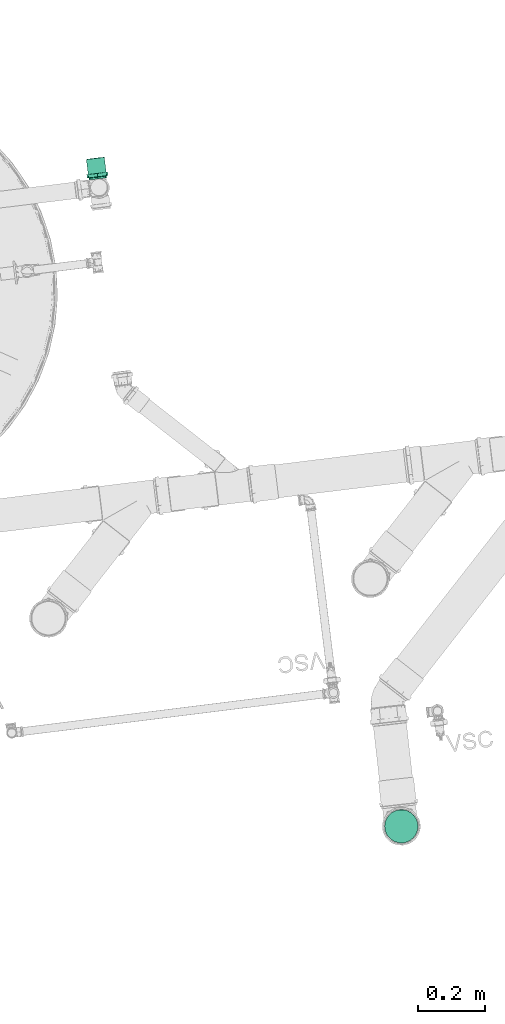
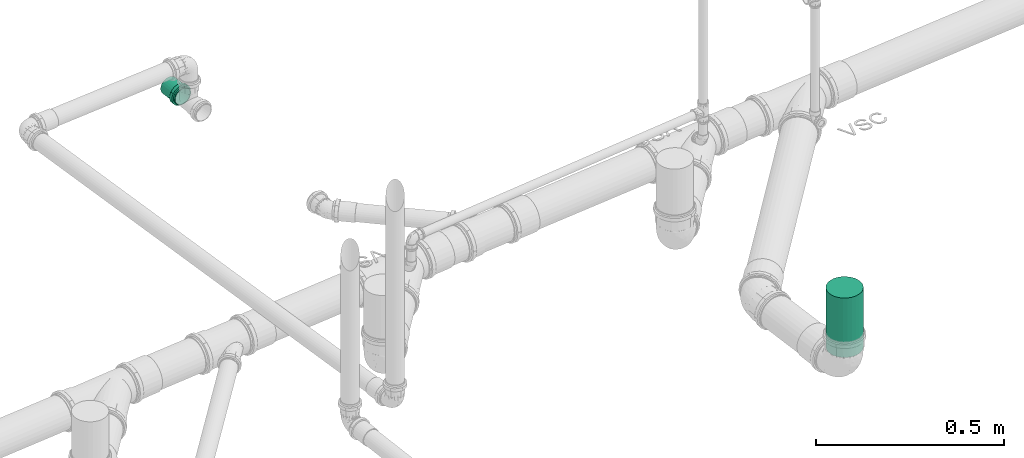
# One storey, part 26 of 97: 1 flow fitting, 1 flow segment.
"""IFC2X3 building model written with IfcOpenShell, lengths in centimetres."""

from ifc_helpers import new_model, entity, si_unit, converted_unit, derived_unit, direction, frame, frame_2d, origin, place, context, subcontext, project, spatial, circle, extrude, faceted_brep, source, transform, mapped, material, type_object, type_shapes, element, save


model = new_model("IFC2X3")

# Units and contexts
model_context = context("Model", 3, precision=0.001, world=origin(), true_north=direction((6.12303176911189e-17, 1.0)))
body_context = subcontext(model_context, "Body", "Model", "MODEL_VIEW")
ifc_project = project(units=[si_unit("LENGTHUNIT", "METRE", prefix="CENTI"), si_unit("AREAUNIT", "SQUARE_METRE"), si_unit("VOLUMEUNIT", "CUBIC_METRE"), converted_unit("PLANEANGLEUNIT", "DEGREE", entity("IfcRatioMeasure", 0.0174532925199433), si_unit("PLANEANGLEUNIT", "RADIAN"), dimensions=[0, 0, 0, 0, 0, 0, 0]), si_unit("MASSUNIT", "GRAM", prefix="KILO"), derived_unit("MASSDENSITYUNIT", [(si_unit("MASSUNIT", "GRAM", prefix="KILO"), 1), (si_unit("LENGTHUNIT", "METRE"), -3)]), derived_unit("MOMENTOFINERTIAUNIT", [(si_unit("LENGTHUNIT", "METRE"), 4)]), si_unit("TIMEUNIT", "SECOND"), si_unit("FREQUENCYUNIT", "HERTZ"), si_unit("THERMODYNAMICTEMPERATUREUNIT", "DEGREE_CELSIUS"), derived_unit("THERMALTRANSMITTANCEUNIT", [(si_unit("MASSUNIT", "GRAM", prefix="KILO"), 1), (si_unit("THERMODYNAMICTEMPERATUREUNIT", "KELVIN"), -1), (si_unit("TIMEUNIT", "SECOND"), -3)]), derived_unit("VOLUMETRICFLOWRATEUNIT", [(si_unit("LENGTHUNIT", "METRE"), 3), (si_unit("TIMEUNIT", "SECOND"), -1)]), si_unit("ELECTRICCURRENTUNIT", "AMPERE"), si_unit("ELECTRICVOLTAGEUNIT", "VOLT"), si_unit("POWERUNIT", "WATT"), si_unit("FORCEUNIT", "NEWTON", prefix="KILO"), si_unit("ILLUMINANCEUNIT", "LUX"), si_unit("LUMINOUSFLUXUNIT", "LUMEN"), si_unit("LUMINOUSINTENSITYUNIT", "CANDELA"), derived_unit("USERDEFINED", [(si_unit("MASSUNIT", "GRAM", prefix="KILO"), -1), (si_unit("LENGTHUNIT", "METRE"), -2), (si_unit("TIMEUNIT", "SECOND"), 3), (si_unit("LUMINOUSFLUXUNIT", "LUMEN"), 1)]), derived_unit("LINEARVELOCITYUNIT", [(si_unit("LENGTHUNIT", "METRE"), 1), (si_unit("TIMEUNIT", "SECOND"), -1)]), si_unit("PRESSUREUNIT", "PASCAL"), derived_unit("USERDEFINED", [(si_unit("LENGTHUNIT", "METRE"), -2), (si_unit("MASSUNIT", "GRAM", prefix="KILO"), 1), (si_unit("TIMEUNIT", "SECOND"), -2)]), derived_unit("LINEARFORCEUNIT", [(si_unit("MASSUNIT", "GRAM", prefix="KILO"), 1), (si_unit("LENGTHUNIT", "METRE"), 1), (si_unit("TIMEUNIT", "SECOND"), -2), (si_unit("LENGTHUNIT", "METRE"), -1)]), derived_unit("PLANARFORCEUNIT", [(si_unit("MASSUNIT", "GRAM", prefix="KILO"), 1), (si_unit("LENGTHUNIT", "METRE"), 1), (si_unit("TIMEUNIT", "SECOND"), -2), (si_unit("LENGTHUNIT", "METRE"), -2)])], contexts=[model_context])

# Site, building, storey
site_placement = place(None, origin())
site = spatial("IfcSite", under=ifc_project, at=site_placement, Name="Default", CompositionType="ELEMENT")
building_placement = place(site_placement, origin())
building = spatial("IfcBuilding", under=site, at=building_placement, Name="HIDROSSANITÁRIO", CompositionType="ELEMENT")
storey_placement = place(building_placement, frame((0.0, 0.0, -260.0)))
storey = spatial("IfcBuildingStorey", under=building, at=storey_placement, Name="TÉRREO-HID", CompositionType="ELEMENT", Elevation=-260.0)

# Flow segment
pipe_segment_type = type_object("IfcPipeSegmentType", Name="Tipos de tubos:Tubo - Esgoto - Série Normal", PredefinedType="NOTDEFINED")
flow_segment_placement = place(storey_placement, origin())
element("IfcFlowSegment", 1, at=flow_segment_placement, inside=storey, type_object=pipe_segment_type, Name="Tipos de tubos:Tubo - Esgoto - Série Normal", ObjectType="Tipos de tubos:Tubo - Esgoto - Série Normal", context=body_context, shape_type="SweptSolid", body=[
    extrude(circle(Radius=5.0, at=frame_2d((0.0, -4.3314685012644e-13), x_axis=(1.0, 0.0))), frame((-1489.38175283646, 2879.55464145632, -29.3156877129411), z_axis=(1.05550584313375e-05, -8.57618278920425e-05, 0.99999999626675), x_axis=(1.0, 0.0, -1.05550584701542e-05)), (0.0, 0.0, 1.0), 19.284630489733),
])

# Flow fitting
ifc_material = material(Name="PVC Branco")
pipe_fitting_type = type_object("IfcPipeFittingType", Name="Luva Simples para Conexão - Serie Normal - Esgoto - MEP - Tigre:Standard", PredefinedType="NOTDEFINED", material=ifc_material)
shared_shape = source(origin(), body_context, "Body", "Brep", [
    faceted_brep([(1.65999999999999, 1.59, -2.75396078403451), (1.65999999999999, 2.24859956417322, -2.24859956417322), (1.65999999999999, 1.35999999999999, -2.35558909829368), (1.65999999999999, 0.703987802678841, -2.62731824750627), (1.65999999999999, 0.82304456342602, -3.07164412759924), (1.65999999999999, 1.9233304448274, -1.92333044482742), (1.65999999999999, 2.75396078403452, -1.59), (1.65999999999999, 2.35558909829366, -1.36000000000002), (1.65999999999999, 2.62731824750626, -0.703987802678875), (1.65999999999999, 3.07164412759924, -0.823044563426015), (1.65999999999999, 2.72, 0.0), (1.65999999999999, 3.18, 0.0), (1.65999999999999, 2.62731824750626, 0.703987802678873), (1.65999999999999, 3.07164412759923, 0.823044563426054), (1.65999999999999, 2.35558909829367, 1.36000000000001), (1.65999999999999, 2.7539607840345, 1.59000000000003), (1.65999999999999, 1.9233304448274, 1.92333044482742), (1.65999999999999, 2.24859956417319, 2.24859956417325), (1.65999999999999, 1.35999999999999, 2.35558909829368), (1.65999999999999, 1.58999999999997, 2.75396078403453), (1.65999999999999, 0.703987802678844, 2.62731824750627), (1.65999999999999, 0.823044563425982, 3.07164412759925), (1.65999999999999, 0.0, 2.72), (1.65999999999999, 0.0, 3.18), (1.65999999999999, -0.703987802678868, 2.62731824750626), (1.65999999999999, -0.823044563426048, 3.07164412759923), (1.65999999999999, -1.36000000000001, 2.35558909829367), (1.65999999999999, -1.59000000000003, 2.7539607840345), (1.65999999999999, -1.92333044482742, 1.9233304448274), (1.65999999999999, -2.24859956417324, 2.2485995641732), (1.65999999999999, -2.35558909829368, 1.35999999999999), (1.65999999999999, -2.75396078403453, 1.58999999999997), (1.65999999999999, -3.07164412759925, 0.823044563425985), (1.65999999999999, -2.62731824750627, 0.703987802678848), (1.65999999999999, -3.18, 0.0), (1.65999999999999, -2.72, 0.0), (1.65999999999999, -3.07164412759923, -0.823044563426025), (1.65999999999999, -2.62731824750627, -0.703987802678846), (1.65999999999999, -2.75396078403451, -1.59000000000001), (1.65999999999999, -2.35558909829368, -1.35999999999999), (1.65999999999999, -2.24859956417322, -2.24859956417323), (1.65999999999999, -1.92333044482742, -1.9233304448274), (1.65999999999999, -1.58999999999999, -2.75396078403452), (1.65999999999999, -1.36000000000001, -2.35558909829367), (1.65999999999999, -0.823044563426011, -3.07164412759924), (1.65999999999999, -0.70398780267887, -2.62731824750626), (1.65999999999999, 0.0, -3.18), (1.65999999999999, 0.0, -2.72), (0.650000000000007, -1.07081089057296, 2.94292196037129), (0.650000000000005, -2.43590738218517, 2.04420038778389), (0.650000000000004, -2.7120498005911, 1.56595386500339), (0.650000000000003, -2.98819221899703, 1.08770734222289), (0.650000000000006, -1.58976972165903, 2.75409372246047), (0.650000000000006, -2.0128385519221, 2.39914705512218), (0.650000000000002, -3.08409610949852, 0.54385367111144), (0.650000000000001, -3.18, 0.0), (0.650000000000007, -0.551852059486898, 3.13175019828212), (0.650000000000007, 0.552637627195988, 3.13161167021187), (0.650000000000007, 0.000392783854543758, 3.13168093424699), (0.650000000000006, 2.01344030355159, 2.39864206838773), (0.650000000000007, 1.07154907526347, 2.94265325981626), (0.650000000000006, 1.59046052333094, 2.75369484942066), (0.650000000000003, 2.98846497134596, 1.08695773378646), (0.650000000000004, 2.7124425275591, 1.56527351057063), (0.650000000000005, 2.43642008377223, 2.0435892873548), (0.650000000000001, 3.18, 0.0), (0.649999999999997, 2.43642008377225, -2.04358928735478), (0.649999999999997, 2.71244252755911, -1.5652735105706), (0.649999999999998, 2.98846497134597, -1.08695773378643), (0.649999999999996, 1.59046052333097, -2.75369484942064), (0.649999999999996, 2.01344030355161, -2.39864206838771), (0.649999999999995, 1.07154907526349, -2.94265325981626), (0.649999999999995, 0.552637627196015, -3.13161167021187), (0.649999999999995, -0.551852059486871, -3.13175019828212), (0.649999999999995, 0.000392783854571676, -3.13168093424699), (0.649999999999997, -2.01283855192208, -2.3991470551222), (0.649999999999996, -1.58976972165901, -2.75409372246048), (0.649999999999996, -1.07081089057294, -2.9429219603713), (0.649999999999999, -2.98819221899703, -1.08770734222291), (0.649999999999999, -2.71204980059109, -1.56595386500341), (0.649999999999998, -2.43590738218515, -2.04420038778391), (0.65, -3.08409610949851, -0.543853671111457), (0.64999999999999, -3.06961738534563, -0.625959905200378), (6.20000000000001, 1.36, -2.35558909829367), (6.20000000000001, 1.92333044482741, -1.92333044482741), (6.20000000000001, 1.24999999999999, -2.1650635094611), (6.20000000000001, 0.647047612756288, -2.41481456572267), (6.20000000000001, 0.70398780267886, -2.62731824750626), (6.20000000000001, 1.76776695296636, -1.76776695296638), (6.20000000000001, 2.35558909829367, -1.36), (6.20000000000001, 2.16506350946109, -1.25000000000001), (6.20000000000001, 2.41481456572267, -0.647047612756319), (6.20000000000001, 2.62731824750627, -0.703987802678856), (6.20000000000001, 2.5, 0.0), (6.20000000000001, 2.72, 0.0), (6.20000000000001, 2.41481456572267, 0.647047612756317), (6.20000000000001, 2.62731824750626, 0.703987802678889), (6.20000000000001, 2.16506350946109, 1.25000000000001), (6.20000000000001, 2.35558909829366, 1.36000000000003), (6.20000000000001, 1.76776695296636, 1.76776695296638), (6.20000000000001, 1.92333044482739, 1.92333044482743), (6.20000000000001, 1.24999999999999, 2.1650635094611), (6.20000000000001, 1.35999999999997, 2.35558909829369), (6.20000000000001, 0.64704761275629, 2.41481456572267), (6.20000000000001, 0.703987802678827, 2.62731824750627), (6.20000000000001, 0.0, 2.5), (6.20000000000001, 0.0, 2.72), (6.20000000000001, -0.647047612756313, 2.41481456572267), (6.20000000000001, -0.703987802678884, 2.62731824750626), (6.20000000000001, -1.25000000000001, 2.16506350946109), (6.20000000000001, -1.36000000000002, 2.35558909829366), (6.20000000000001, -1.76776695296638, 1.76776695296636), (6.20000000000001, -1.92333044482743, 1.92333044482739), (6.20000000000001, -2.1650635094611, 1.24999999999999), (6.20000000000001, -2.35558909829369, 1.35999999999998), (6.20000000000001, -2.62731824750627, 0.703987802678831), (6.20000000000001, -2.41481456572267, 0.647047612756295), (6.20000000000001, -2.72, 0.0), (6.20000000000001, -2.5, 0.0), (6.20000000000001, -2.62731824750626, -0.703987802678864), (6.20000000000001, -2.41481456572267, -0.647047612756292), (6.20000000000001, -2.35558909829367, -1.36000000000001), (6.20000000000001, -2.1650635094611, -1.24999999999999), (6.20000000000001, -1.9233304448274, -1.92333044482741), (6.20000000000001, -1.76776695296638, -1.76776695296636), (6.20000000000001, -1.36, -2.35558909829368), (6.20000000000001, -1.25000000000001, -2.16506350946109), (6.20000000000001, -0.703987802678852, -2.62731824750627), (6.20000000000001, -0.647047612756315, -2.41481456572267), (6.20000000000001, 0.0, -2.72), (6.20000000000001, 0.0, -2.5), (0.0, 1.24999999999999, -2.1650635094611), (0.0, 1.92333044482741, -1.92333044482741), (0.0, 1.36, -2.35558909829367), (0.0, 0.647047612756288, -2.41481456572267), (0.0, 1.76776695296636, -1.76776695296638), (0.0, 2.35558909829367, -1.36), (0.0, 2.16506350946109, -1.25000000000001), (0.0, 2.41481456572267, -0.647047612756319), (0.0, 2.62731824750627, -0.703987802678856), (0.0, 2.5, 0.0), (0.0, 2.72, 0.0), (0.0, 2.41481456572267, 0.647047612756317), (0.0, 2.62731824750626, 0.703987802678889), (0.0, 2.16506350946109, 1.25000000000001), (0.0, 2.35558909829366, 1.36000000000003), (0.0, 1.76776695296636, 1.76776695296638), (0.0, 1.92333044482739, 1.92333044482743), (0.0, 1.24999999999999, 2.1650635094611), (0.0, 1.35999999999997, 2.35558909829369), (0.0, 0.64704761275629, 2.41481456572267), (0.0, 0.703987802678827, 2.62731824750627), (0.0, 0.0, 2.5), (0.0, 0.0, 2.72), (0.0, -0.647047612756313, 2.41481456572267), (0.0, -0.703987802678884, 2.62731824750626), (0.0, -1.25000000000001, 2.16506350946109), (0.0, -1.36000000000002, 2.35558909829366), (0.0, -1.76776695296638, 1.76776695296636), (0.0, -1.92333044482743, 1.92333044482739), (0.0, -2.1650635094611, 1.24999999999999), (0.0, -2.35558909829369, 1.35999999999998), (0.0, -2.62731824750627, 0.703987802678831), (0.0, -2.41481456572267, 0.647047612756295), (0.0, -2.72, 0.0), (0.0, -2.5, 0.0), (0.0, -2.62731824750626, -0.703987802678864), (0.0, -2.41481456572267, -0.647047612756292), (0.0, -2.35558909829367, -1.36000000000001), (0.0, -2.1650635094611, -1.24999999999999), (0.0, -1.9233304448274, -1.92333044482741), (0.0, -1.76776695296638, -1.76776695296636), (0.0, -1.36, -2.35558909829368), (0.0, -1.25000000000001, -2.16506350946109), (0.0, -0.703987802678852, -2.62731824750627), (0.0, -0.647047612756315, -2.41481456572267), (0.0, 0.0, -2.72), (0.0, 0.0, -2.5), (0.0, 0.70398780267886, -2.62731824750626), (0.53, -2.63796899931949, 0.465183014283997), (0.529999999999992, -2.62558467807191, 0.535412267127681), (0.530000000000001, -2.55593799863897, 0.930366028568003), (0.530000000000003, -2.08354342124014, 1.74849844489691), (0.530000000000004, -1.72167322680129, 2.05210062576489), (0.530000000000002, -2.31974070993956, 1.33943223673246), (0.530000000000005, -0.472024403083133, 2.67872972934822), (0.530000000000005, -0.915913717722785, 2.51721626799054), (0.53, -2.72, 0.0), (0.530000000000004, -1.35980303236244, 2.35570280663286), (0.530000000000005, 0.916545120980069, 2.51698643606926), (0.530000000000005, 1.36039390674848, 2.35536163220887), (0.530000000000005, 0.47269633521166, 2.67861123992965), (0.530000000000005, 1.72218793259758, 2.05166868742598), (0.530000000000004, 2.08398195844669, 1.7479757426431), (0.530000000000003, 2.5561712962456, 0.929724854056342), (0.53, 2.72, 0.0), (0.530000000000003, 2.32007662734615, 1.33885029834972), (0.530000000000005, 0.000335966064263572, 2.67867048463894), (0.529999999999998, 2.55617129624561, -0.929724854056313), (0.529999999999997, 2.08398195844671, -1.74797574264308), (0.529999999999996, 1.7221879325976, -2.05166868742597), (0.529999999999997, 2.32007662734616, -1.3388502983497), (0.529999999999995, 0.472696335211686, -2.67861123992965), (0.529999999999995, 0.916545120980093, -2.51698643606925), (0.529999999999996, 1.3603939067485, -2.35536163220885), (0.529999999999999, -2.63796899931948, -0.465183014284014), (0.529999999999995, -0.915913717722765, -2.51721626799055), (0.529999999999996, -1.35980303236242, -2.35570280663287), (0.529999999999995, -0.47202440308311, -2.67872972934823), (0.529999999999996, -1.72167322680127, -2.0521006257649), (0.529999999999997, -2.08354342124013, -1.74849844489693), (0.529999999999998, -2.55593799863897, -0.930366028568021), (0.529999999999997, -2.31974070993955, -1.33943223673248), (0.529999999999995, 0.000335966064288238, -2.67867048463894), (3.9, -2.5, 0.0), (3.9, 2.5, 0.0)], [[[0, 1, 2]], [[0, 2, 3]], [[3, 4, 0]], [[2, 1, 5]], [[6, 5, 1]], [[7, 5, 6]], [[8, 7, 6]], [[8, 6, 9]], [[8, 9, 10]], [[10, 9, 11]], [[12, 10, 11]], [[12, 11, 13]], [[14, 12, 13]], [[14, 13, 15]], [[16, 14, 15]], [[15, 17, 16]], [[17, 18, 16]], [[17, 19, 18]], [[18, 19, 20]], [[21, 20, 19]], [[20, 21, 22]], [[22, 21, 23]], [[22, 23, 24]], [[24, 23, 25]], [[24, 25, 26]], [[27, 26, 25]], [[27, 28, 26]], [[28, 27, 29]], [[30, 28, 29]], [[31, 30, 29]], [[32, 30, 31]], [[33, 30, 32]], [[33, 32, 34]], [[35, 33, 34]], [[36, 35, 34]], [[36, 37, 35]], [[37, 36, 38]], [[39, 37, 38]], [[39, 38, 40]], [[39, 40, 41]], [[40, 42, 41]], [[41, 42, 43]], [[43, 42, 44]], [[44, 45, 43]], [[46, 45, 44]], [[4, 47, 46]], [[46, 47, 45]], [[4, 3, 47]], [[48, 27, 25]], [[31, 29, 49]], [[31, 49, 50, 51]], [[52, 53, 27]], [[32, 51, 54]], [[54, 55, 34]], [[54, 34, 32]], [[25, 56, 48]], [[49, 29, 53]], [[23, 57, 58, 56]], [[59, 19, 17]], [[27, 53, 29]], [[48, 52, 27]], [[31, 51, 32]], [[57, 23, 21]], [[60, 19, 61]], [[15, 62, 63, 64]], [[19, 60, 21]], [[15, 13, 62]], [[17, 64, 59]], [[57, 21, 60]], [[23, 56, 25]], [[15, 64, 17]], [[13, 65, 62]], [[13, 11, 65]], [[59, 61, 19]], [[65, 11, 9]], [[6, 1, 66]], [[6, 66, 67, 68]], [[69, 70, 0]], [[68, 65, 9]], [[71, 69, 0]], [[71, 0, 4]], [[4, 72, 71]], [[66, 1, 70]], [[46, 73, 74, 72]], [[75, 76, 42]], [[0, 70, 1]], [[75, 42, 40]], [[6, 68, 9]], [[73, 46, 44]], [[77, 42, 76]], [[38, 78, 79, 80]], [[42, 77, 44]], [[38, 36, 78]], [[40, 80, 75]], [[73, 44, 77]], [[46, 72, 4]], [[38, 80, 40]], [[36, 81, 82, 78]], [[55, 81, 34]], [[34, 81, 36]], [[83, 84, 85]], [[83, 85, 86]], [[86, 87, 83]], [[85, 84, 88]], [[89, 88, 84]], [[88, 89, 90]], [[90, 89, 91]], [[92, 91, 89]], [[92, 93, 91]], [[93, 92, 94]], [[95, 93, 94]], [[94, 96, 95]], [[95, 96, 97]], [[98, 97, 96]], [[97, 98, 99]], [[99, 98, 100]], [[101, 99, 100]], [[100, 102, 101]], [[101, 102, 103]], [[104, 103, 102]], [[103, 104, 105]], [[105, 104, 106]], [[105, 106, 107]], [[107, 106, 108]], [[107, 108, 109]], [[110, 109, 108]], [[110, 111, 109]], [[111, 110, 112]], [[112, 113, 111]], [[114, 113, 112]], [[113, 114, 115]], [[115, 116, 113]], [[117, 116, 115]], [[117, 118, 116]], [[119, 118, 117]], [[119, 120, 118]], [[120, 119, 121]], [[121, 122, 120]], [[122, 121, 123]], [[122, 123, 124]], [[123, 125, 124]], [[124, 125, 126]], [[126, 125, 127]], [[127, 128, 126]], [[129, 128, 127]], [[87, 130, 129]], [[129, 130, 128]], [[87, 86, 130]], [[131, 132, 133]], [[134, 131, 133]], [[135, 132, 131]], [[132, 135, 136]], [[137, 136, 135]], [[138, 136, 137]], [[136, 138, 139]], [[138, 140, 139]], [[141, 139, 140]], [[141, 140, 142]], [[142, 143, 141]], [[144, 143, 142]], [[143, 144, 145]], [[146, 145, 144]], [[147, 145, 146]], [[147, 146, 148]], [[148, 149, 147]], [[150, 149, 148]], [[149, 150, 151]], [[152, 151, 150]], [[153, 151, 152]], [[154, 153, 152]], [[155, 153, 154]], [[156, 155, 154]], [[155, 156, 157]], [[156, 158, 157]], [[159, 157, 158]], [[158, 160, 159]], [[159, 160, 161]], [[162, 161, 160]], [[160, 163, 162]], [[162, 163, 164]], [[163, 165, 164]], [[164, 165, 166]], [[165, 167, 166]], [[168, 166, 167]], [[167, 169, 168]], [[170, 168, 169]], [[171, 170, 169]], [[171, 172, 170]], [[173, 172, 171]], [[174, 172, 173]], [[173, 175, 174]], [[174, 175, 176]], [[175, 177, 176]], [[177, 134, 178]], [[176, 177, 178]], [[133, 178, 134]], [[162, 179, 180, 181]], [[159, 182, 183]], [[182, 161, 181, 184]], [[185, 155, 186]], [[161, 162, 181]], [[187, 179, 164]], [[183, 188, 157]], [[183, 157, 159]], [[161, 182, 159]], [[189, 190, 149]], [[189, 149, 151]], [[157, 188, 186]], [[157, 186, 155]], [[153, 155, 185]], [[164, 179, 162]], [[151, 191, 189]], [[147, 192, 193]], [[143, 194, 195]], [[194, 145, 193, 196]], [[143, 195, 141]], [[10, 12, 96, 94]], [[149, 192, 147]], [[153, 185, 197, 191]], [[153, 191, 151]], [[145, 147, 193]], [[190, 192, 149]], [[145, 194, 143]], [[139, 195, 198]], [[132, 199, 200]], [[199, 136, 198, 201]], [[202, 178, 203]], [[136, 139, 198]], [[139, 141, 195]], [[92, 8, 10, 94]], [[133, 203, 178]], [[200, 204, 133]], [[136, 199, 132]], [[205, 164, 166]], [[206, 207, 172]], [[133, 204, 203]], [[206, 172, 174]], [[176, 178, 202]], [[200, 133, 132]], [[174, 208, 206]], [[170, 209, 210]], [[166, 211, 205]], [[211, 168, 210, 212]], [[168, 211, 166]], [[172, 209, 170]], [[176, 202, 213, 208]], [[176, 208, 174]], [[168, 170, 210]], [[207, 209, 172]], [[205, 187, 164]], [[116, 118, 214, 165, 163]], [[156, 109, 111, 158]], [[111, 113, 160, 158]], [[113, 116, 163, 160]], [[107, 109, 156, 154]], [[154, 152, 105, 107]], [[103, 105, 152, 150]], [[103, 150, 148, 101]], [[142, 95, 97, 144]], [[97, 99, 146, 144]], [[99, 101, 148, 146]], [[93, 95, 142, 140, 215]], [[215, 140, 138, 91, 93]], [[135, 131, 85, 88]], [[90, 91, 138, 137]], [[90, 137, 135, 88]], [[86, 85, 131, 134]], [[134, 177, 130, 86]], [[128, 130, 177, 175]], [[128, 175, 173, 126]], [[167, 120, 122, 169]], [[122, 124, 171, 169]], [[124, 126, 173, 171]], [[118, 120, 167, 165, 214]], [[211, 78, 82, 81, 55, 187, 205]], [[79, 78, 211, 212, 210, 80]], [[75, 80, 210, 209, 207, 76]], [[207, 206, 208, 73, 77, 76]], [[213, 202, 72, 74, 73, 208]], [[203, 204, 69, 71, 72, 202]], [[198, 195, 65, 68]], [[199, 201, 198, 68, 67, 66]], [[204, 200, 199, 66, 70, 69]], [[195, 194, 62, 65]], [[197, 185, 56, 58, 57, 191]], [[63, 62, 194, 196, 193, 64]], [[57, 60, 61, 190, 189, 191]], [[193, 192, 190, 61, 59, 64]], [[48, 56, 185, 186, 188, 52]], [[187, 55, 54, 51, 181, 180, 179]], [[182, 184, 181, 51, 50, 49]], [[188, 183, 182, 49, 53, 52]], [[30, 33, 115, 114]], [[117, 115, 33, 35]], [[26, 28, 112, 110]], [[114, 112, 28, 30]], [[24, 26, 110, 108]], [[108, 106, 22, 24]], [[18, 20, 104, 102]], [[100, 16, 18, 102]], [[12, 14, 98, 96]], [[100, 98, 14, 16]], [[104, 20, 22, 106]], [[89, 7, 8, 92]], [[83, 87, 3, 2]], [[7, 89, 84, 5]], [[83, 2, 5, 84]], [[87, 129, 47, 3]], [[43, 45, 127, 125]], [[123, 41, 43, 125]], [[37, 39, 121, 119]], [[123, 121, 39, 41]], [[35, 37, 119, 117]], [[127, 45, 47, 129]]]),
])
type_shapes(pipe_fitting_type, [shared_shape])
flow_fitting_placement = place(storey_placement, frame((-1580.38095853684, 3073.73420298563, -33.9213127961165), z_axis=(-0.992511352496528, -0.122152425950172, 0.0), x_axis=(-0.12213263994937, 0.992350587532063, 0.0179980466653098)))
element("IfcFlowFitting", 2, at=flow_fitting_placement, inside=storey, type_object=pipe_fitting_type, material=ifc_material, Name="Luva Simples para Conexão - Serie Normal - Esgoto - MEP - Tigre:Standard", ObjectType="Luva Simples para Conexão - Serie Normal - Esgoto - MEP - Tigre:Standard", context=body_context, shape_type="MappedRepresentation", body=[
    mapped(shared_shape, transform((0.0, 0.0, 0.0), scale=1.0)),
])

save(model, "model.ifc")
